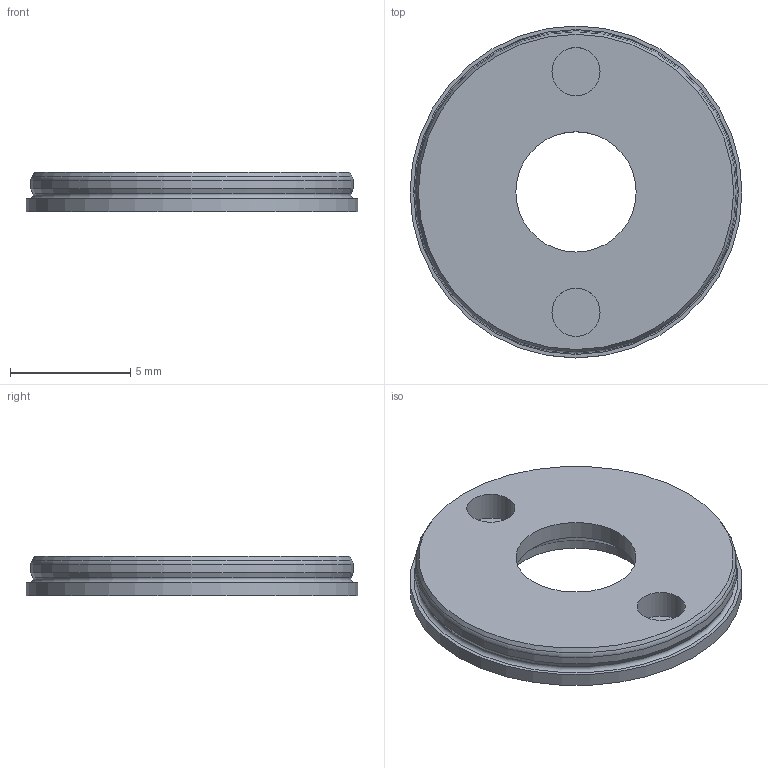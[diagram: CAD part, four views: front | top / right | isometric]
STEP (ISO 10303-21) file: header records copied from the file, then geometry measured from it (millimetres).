
FILE_DESCRIPTION(/* description */ (''),/* implementation_level */ '2;1');
FILE_NAME(/* name */ '14GPT_flange_a_416.5151.01.stp',/* time_stamp */ '2024-10-30T09:31:35+01:00',/* author */ ('DR. FRITZ FAULHABER GmbH & Co. KG'),/* organization */ ('DR. FRITZ FAULHABER GmbH & Co. KG'),/* preprocessor_version */ 'ST-DEVELOPER v19.3',/* originating_system */ 'SIEMENS PLM Software NX2212.4000',/* authorisation */ '');
FILE_SCHEMA (('AUTOMOTIVE_DESIGN { 1 0 10303 214 3 1 1 1 }'));
Length unit declared in the file: millimetre
Products named in the file (1): B_objects
Bounding box: 13.8 x 13.8 x 1.65 mm (x, y, z)
Volume: 190 mm3; surface area: 365.3 mm2
Topology: 1 solids, 1 shells, 16 faces, 30 edges, 19 vertices
Faces by surface type: cylinder 6, plane 5, cone 3, torus 2
Full cylindrical faces by diameter (mm): 2 x2, 5 x1, 6 x1, 13.4 x1, 13.8 x1
Entity records: 360 total; most frequent: DIRECTION 66, CARTESIAN_POINT 49, AXIS2_PLACEMENT_3D 33, EDGE_LOOP 32, ORIENTED_EDGE 32, FACE_BOUND 30, ADVANCED_FACE 16, VERTEX_POINT 16
